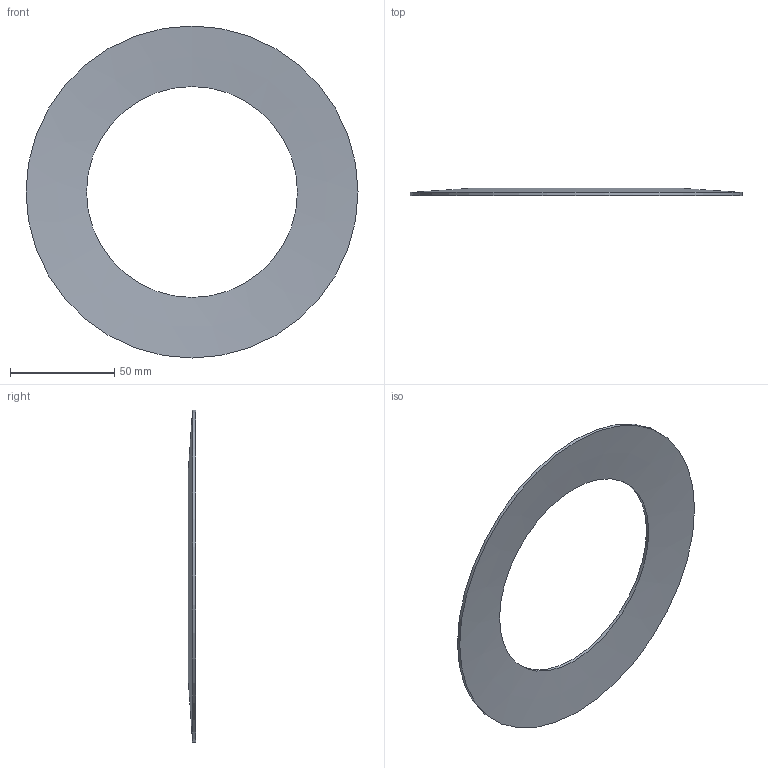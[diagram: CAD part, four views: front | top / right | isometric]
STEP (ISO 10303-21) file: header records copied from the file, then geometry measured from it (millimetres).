
FILE_DESCRIPTION(/* description */ ('412N'),/* implementation_level */ '2;1');
FILE_NAME(/* name */ 'ST.1590.1010.0150.step',/* time_stamp */ '2026-09-18T10:39:31+02:00',/* author */ ('impex-ready.pl'),/* organization */ ('ST.1590.1010.0150'),/* preprocessor_version */ 'ST-DEVELOPER v20.1',/* originating_system */ 'Autodesk Inventor 2026',/* authorisation */ 'Ugiecie 0,75 h0 = 1.5');
FILE_SCHEMA (('AUTOMOTIVE_DESIGN { 1 0 10303 214 3 1 1 }'));
Length unit declared in the file: millimetre
Products named in the file (1): ST.1590.1010.0150
Bounding box: 159 x 3.5 x 159 mm (x, y, z)
Volume: 17807.8 mm3; surface area: 24971.8 mm2
Topology: 1 solids, 1 shells, 4 faces, 8 edges, 4 vertices
Faces by surface type: cone 2, cylinder 2
Full cylindrical faces by diameter (mm): 101 x1, 159 x1
Entity records: 151 total; most frequent: DIRECTION 22, CARTESIAN_POINT 17, ORIENTED_EDGE 16, AXIS2_PLACEMENT_3D 9, EDGE_CURVE 8, FACE_OUTER_BOUND 4, EDGE_LOOP 4, LINE 4
